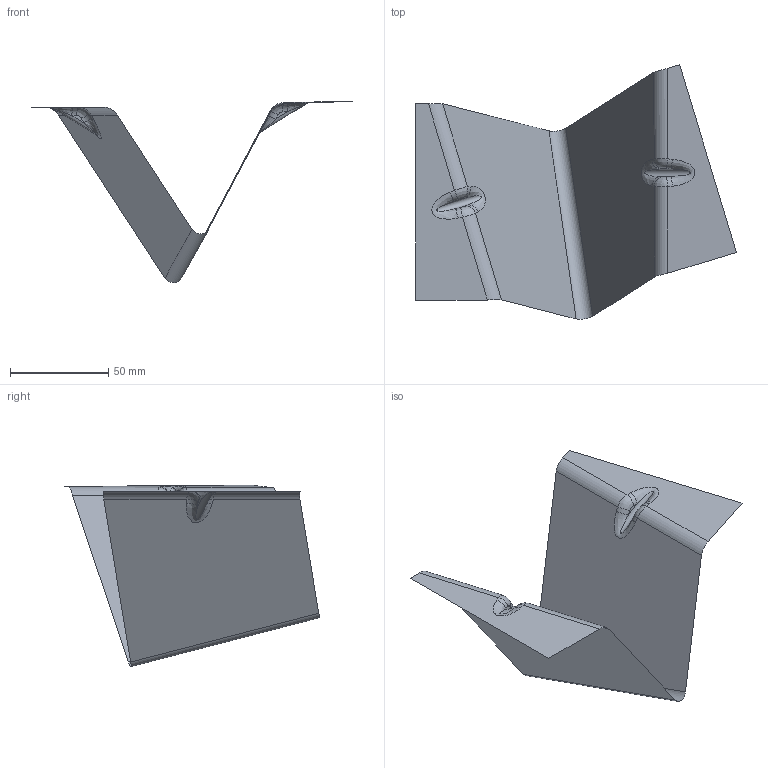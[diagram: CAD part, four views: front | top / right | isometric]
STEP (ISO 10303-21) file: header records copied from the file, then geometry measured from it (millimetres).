
FILE_DESCRIPTION(('CATIA V5 STEP Exchange'),'2;1');
FILE_NAME('C:\_Andres\UNIVERSIDAD\IQS\ASIGNATURAS\DAO\EXF\EXF-16172c\2inicio\Munar_Parra_Ej03_v20.stp','2017-03-05T19:32:21+00:00',('none'),('none'),'CATIA Version 5-6 Release 2014 SP1 HF18','CATIA V5 STEP AP203','none');
FILE_SCHEMA(('CONFIG_CONTROL_DESIGN'));
Length unit declared in the file: millimetre
Products named in the file (1): Munar_Parra_Ej03_v20
Bounding box: 163.65 x 129.67 x 92.49 mm (x, y, z)
Surface area: 24340.9 mm2 (no closed solid volume)
Topology: 0 solids, 1 shells, 31 faces, 78 edges, 48 vertices
Faces by surface type: cylinder 15, plane 8, bspline 8
Entity records: 2551 total; most frequent: CARTESIAN_POINT 1878, ORIENTED_EDGE 140, DIRECTION 90, EDGE_CURVE 78, VERTEX_POINT 48, VECTOR 40, LINE 40, ADVANCED_FACE 31
